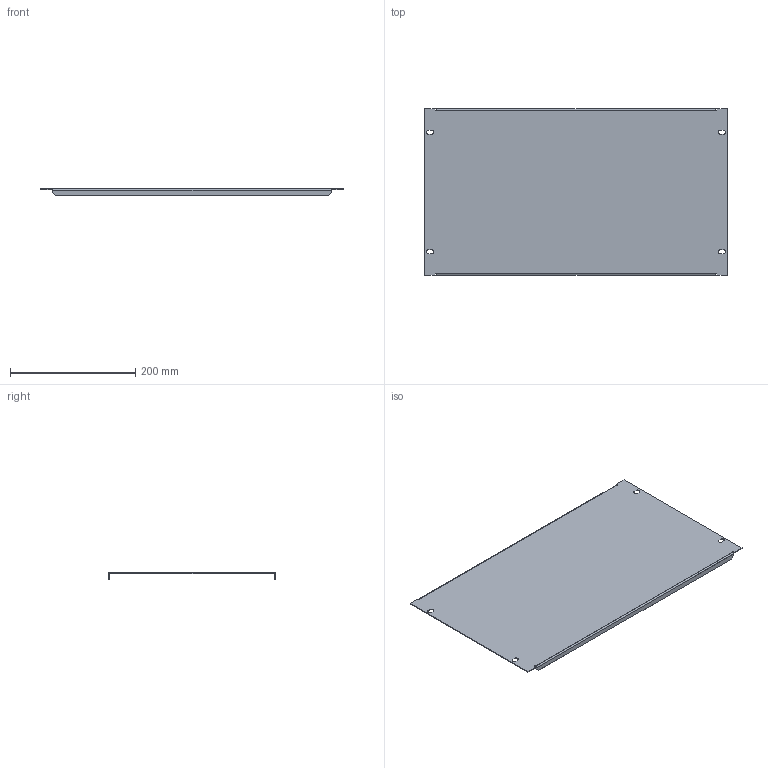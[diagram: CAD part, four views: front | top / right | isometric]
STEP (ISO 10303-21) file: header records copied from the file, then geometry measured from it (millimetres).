
FILE_DESCRIPTION (( 'STEP AP203' ), '1' );
FILE_NAME ('MB 60.48 I Ïàíåëü ãëóõàÿ 19''''.STEP', '2013-01-12T07:03:03', ( 'System' ), ( '' ), 'SwSTEP 2.0', 'SolidWorks 2012', '' );
FILE_SCHEMA (( 'CONFIG_CONTROL_DESIGN' ));
Length unit declared in the file: millimetre
Products named in the file (1): MB 60.48 I Ïàíåëü ãëóõàÿ 19''''
Bounding box: 482.6 x 265.9 x 10 mm (x, y, z)
Volume: 162140 mm3; surface area: 272227.2 mm2
Topology: 1 solids, 1 shells, 58 faces, 152 edges, 96 vertices
Faces by surface type: plane 38, cylinder 20
Entity records: 1861 total; most frequent: DIRECTION 310, CARTESIAN_POINT 307, ORIENTED_EDGE 304, EDGE_CURVE 152, VECTOR 112, LINE 112, AXIS2_PLACEMENT_3D 99, VERTEX_POINT 96
